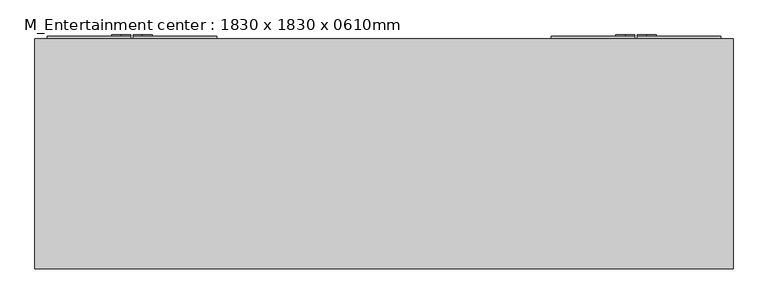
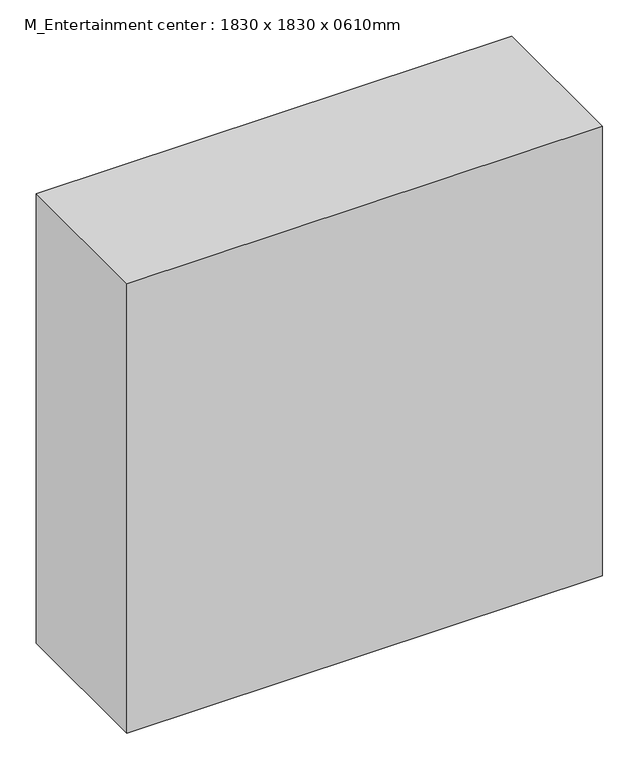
"""IFC4 building model written with IfcOpenShell, lengths in millimetres: furniture geometry, M_Entertainment center : 1830 x 1830 x 0610mm."""

import ifcopenshell
import ifcopenshell.guid

model = None  # the IFC model being written
_history = None  # IfcOwnerHistory: only IFC2X3 demands one
_inside = {}  # id of a spatial element -> (the spatial element, [elements in it])
_under = {}  # id of a project, library or spatial element -> (it, [spatial elements below it])
_declared = {}  # id of a project -> (the project, [libraries it declares])
_typed = {}  # id of a type object -> (the type object, [elements of that type])
_made_of = {}  # id of a material, layer set ... -> (it, [elements and type objects made of it])


def new_model(schema):
    """Start an empty IFC model of exactly this schema.

    Asked for "IFC4X3", IfcOpenShell would pick the latest addendum, in which some entities
    have other attributes; the version numbers below select the first issue.
    IFC2X3 requires an IfcOwnerHistory on every rooted entity: one is made here for all.
    """
    global model, _history
    if schema == "IFC4X3":
        model = ifcopenshell.file(schema_version=(4, 3, 0, 0))
    else:
        model = ifcopenshell.file(schema=schema)
    _inside.clear()
    _under.clear()
    _declared.clear()
    _typed.clear()
    _made_of.clear()
    _history = None
    if model.schema == "IFC2X3":
        org = make("IfcOrganization", Name="unknown")
        user = make(
            "IfcPersonAndOrganization",
            ThePerson=make("IfcPerson", FamilyName="unknown"),
            TheOrganization=org,
        )
        app = make(
            "IfcApplication",
            ApplicationDeveloper=org,
            Version="unknown",
            ApplicationFullName="unknown",
            ApplicationIdentifier="unknown",
        )
        _history = make(
            "IfcOwnerHistory",
            OwningUser=user,
            OwningApplication=app,
            ChangeAction="ADDED",
            CreationDate=0,
        )
    return model


def make(cls, **values):
    """One entity of the class cls with the attributes given. An attribute that is None is left unset."""
    return model.create_entity(
        cls, **{name: value for name, value in values.items() if value is not None}
    )


def rooted(cls, **values):
    """An entity with a GlobalId (a new one), such as an element, a storey or a relation."""
    return make(cls, GlobalId=ifcopenshell.guid.new(), OwnerHistory=_history, **values)


def si_unit(unit_type, name, prefix=None):
    """IfcSIUnit, for example si_unit("LENGTHUNIT", "METRE", prefix="MILLI")."""
    return make("IfcSIUnit", UnitType=unit_type, Prefix=prefix, Name=name)


def assignment(units):
    """IfcUnitAssignment: the units of a project."""
    return None if units is None else make("IfcUnitAssignment", Units=units)


def point(xyz):
    """IfcCartesianPoint."""
    return None if xyz is None else make("IfcCartesianPoint", Coordinates=xyz)


def direction(xyz):
    """IfcDirection."""
    return None if xyz is None else make("IfcDirection", DirectionRatios=xyz)


def frame(location, z_axis=None, x_axis=None):
    """IfcAxis2Placement3D, a coordinate frame: its origin and axes. An axis left out is left unset."""
    return make(
        "IfcAxis2Placement3D",
        Location=point(location),
        Axis=direction(z_axis),
        RefDirection=direction(x_axis),
    )


def frame_2d(location, x_axis=None):
    """IfcAxis2Placement2D, a coordinate frame in the plane: its origin and x axis."""
    return make(
        "IfcAxis2Placement2D", Location=point(location), RefDirection=direction(x_axis)
    )


def origin():
    """The frame at (0, 0, 0) with its axes left unset."""
    return frame((0.0, 0.0, 0.0))


def place(relative_to, where):
    """IfcLocalPlacement: puts the frame where relative to a parent placement (None: the world)."""
    return make(
        "IfcLocalPlacement", PlacementRelTo=relative_to, RelativePlacement=where
    )


def context(
    kind, dimensions, precision=None, world=None, true_north=None, identifier=None
):
    """IfcGeometricRepresentationContext, for example the 3D "Model" context."""
    return make(
        "IfcGeometricRepresentationContext",
        ContextIdentifier=identifier,
        ContextType=kind,
        CoordinateSpaceDimension=dimensions,
        Precision=precision,
        WorldCoordinateSystem=world,
        TrueNorth=true_north,
    )


def project(units=None, contexts=None):
    """IfcProject with its units and contexts."""
    return rooted(
        "IfcProject",
        Name="project",
        RepresentationContexts=contexts,
        UnitsInContext=assignment(units),
    )


def spatial(cls, under=None, at=None, **own):
    """A site, building, storey or space (cls), placed at a placement, below another one or the project."""
    s = rooted(cls, ObjectPlacement=at, **own)
    if under is not None:
        _under.setdefault(under.id(), (under, []))[1].append(s)
    return s


def polyline(points):
    """IfcPolyline through the points."""
    return make("IfcPolyline", Points=[point(p) for p in points])


def circle_curve(where, radius):
    """IfcCircle in the frame where."""
    return make("IfcCircle", Position=where, Radius=radius)


def trimmed(basis, trim1, trim2, sense, master):
    """IfcTrimmedCurve: the piece of a basis curve between two trims."""
    return make(
        "IfcTrimmedCurve",
        BasisCurve=basis,
        Trim1=trim1,
        Trim2=trim2,
        SenseAgreement=sense,
        MasterRepresentation=master,
    )


def segment(curve, same_sense, transition):
    """IfcCompositeCurveSegment."""
    return make(
        "IfcCompositeCurveSegment",
        Transition=transition,
        SameSense=same_sense,
        ParentCurve=curve,
    )


def composite_curve(segments, self_intersect=None):
    """IfcCompositeCurve: segments joined end to end."""
    return make("IfcCompositeCurve", Segments=segments, SelfIntersect=self_intersect)


def outline(outer, holes=None, kind="AREA"):
    """IfcArbitraryClosedProfileDef: a profile drawn as a closed curve; with holes, ...WithVoids."""
    if holes is None:
        return make("IfcArbitraryClosedProfileDef", ProfileType=kind, OuterCurve=outer)
    return make(
        "IfcArbitraryProfileDefWithVoids",
        ProfileType=kind,
        OuterCurve=outer,
        InnerCurves=holes,
    )


def extrude(swept, where, along, depth):
    """IfcExtrudedAreaSolid: the profile swept, set in the frame where, extruded along a direction by depth."""
    return make(
        "IfcExtrudedAreaSolid",
        SweptArea=swept,
        Position=where,
        ExtrudedDirection=direction(along),
        Depth=depth,
    )


def faces_of(points, faces, orient=None, outer=None):
    """IfcFace entities. A face is a list of loops; a loop is a list of indices into points, from 0.

    orient and outer hold one flag for each loop. By default every Orientation is true, the
    first loop of a face is its IfcFaceOuterBound and the others are IfcFaceBound.
    """
    made = []
    for i, loops in enumerate(faces):
        bounds = []
        for j, loop in enumerate(loops):
            is_outer = j == 0 if outer is None else outer[i][j]
            bounds.append(
                make(
                    "IfcFaceOuterBound" if is_outer else "IfcFaceBound",
                    Bound=make("IfcPolyLoop", Polygon=[points[k] for k in loop]),
                    Orientation=True if orient is None else orient[i][j],
                )
            )
        made.append(make("IfcFace", Bounds=bounds))
    return made


def faceted_brep(points, faces, orient=None, outer=None, voids=None):
    """IfcFacetedBrep: a solid bounded by flat faces; with voids (closed shells), ...WithVoids."""
    shared = [point(p) for p in points]
    hull = make("IfcClosedShell", CfsFaces=faces_of(shared, faces, orient, outer))
    if voids is None:
        return make("IfcFacetedBrep", Outer=hull)
    return make(
        "IfcFacetedBrepWithVoids",
        Outer=hull,
        Voids=[
            make(cls, CfsFaces=faces_of(shared, fs, o, b)) for cls, fs, o, b in voids
        ],
    )


def shape(context_of_items, identifier, shape_type, items):
    """IfcShapeRepresentation: the items that make up one representation, for example the "Body"."""
    return make(
        "IfcShapeRepresentation",
        ContextOfItems=context_of_items,
        RepresentationIdentifier=identifier,
        RepresentationType=shape_type,
        Items=items,
    )


def source(mapping_origin, context_of_items, identifier, shape_type, items):
    """IfcRepresentationMap: a shape defined once, which mapped items show again and again."""
    return make(
        "IfcRepresentationMap",
        MappingOrigin=mapping_origin,
        MappedRepresentation=shape(context_of_items, identifier, shape_type, items),
    )


def transform(
    local_origin,
    x_axis=None,
    y_axis=None,
    z_axis=None,
    scale=None,
    scale2=None,
    scale3=None,
    uniform=True,
):
    """IfcCartesianTransformationOperator3D, or its non-uniform kind. x_axis, y_axis, z_axis: its Axis1, 2, 3."""
    if uniform:
        return make(
            "IfcCartesianTransformationOperator3D",
            Axis1=direction(x_axis),
            Axis2=direction(y_axis),
            LocalOrigin=point(local_origin),
            Scale=scale,
            Axis3=direction(z_axis),
        )
    return make(
        "IfcCartesianTransformationOperator3DnonUniform",
        Axis1=direction(x_axis),
        Axis2=direction(y_axis),
        LocalOrigin=point(local_origin),
        Scale=scale,
        Axis3=direction(z_axis),
        Scale2=scale2,
        Scale3=scale3,
    )


def mapped(mapping_source, mapping_target):
    """IfcMappedItem: shows the shape of a source again, moved by a transform."""
    return make(
        "IfcMappedItem", MappingSource=mapping_source, MappingTarget=mapping_target
    )


def made_of(thing, what):
    """Note that an element or type object is made of a material, layer set ...; save() writes the relation."""
    if what is not None:
        _made_of.setdefault(what.id(), (what, []))[1].append(thing)
    return thing


def element(
    cls,
    number,
    at=None,
    inside=None,
    cuts=None,
    type_object=None,
    material=None,
    context=None,
    identifier="Body",
    shape_type=None,
    held_by="IfcProductDefinitionShape",
    body=None,
    shapes=None,
    **own,
):
    """One element of the class cls, such as IfcWall. Its Tag is "e" and its number.

    at: its placement. inside: the storey or other place that contains it. cuts: it is an
    opening in that element (IfcRelVoidsElement). A single representation is given by context,
    identifier, shape_type and body (its items); several are given by shapes. held_by: the class
    of the entity that holds the representations. save() writes the other relations.
    """
    e = rooted(cls, Tag="e%d" % number, ObjectPlacement=at, **own)
    if body is not None:
        shapes = [shape(context, identifier, shape_type, body)]
    if shapes is not None:
        e.Representation = make(held_by, Representations=shapes)
    if inside is not None:
        _inside.setdefault(inside.id(), (inside, []))[1].append(e)
    if cuts is not None:
        rooted(
            "IfcRelVoidsElement", RelatingBuildingElement=cuts, RelatedOpeningElement=e
        )
    if type_object is not None:
        _typed.setdefault(type_object.id(), (type_object, []))[1].append(e)
    return made_of(e, material)


def aggregate(whole, parts):
    """IfcRelAggregates: a whole, such as a stair, and the parts it consists of."""
    return rooted("IfcRelAggregates", RelatingObject=whole, RelatedObjects=parts)


def save(model, path):
    """Write the relations noted so far, then the file.

    IfcRelAggregates (storeys below a building ...), IfcRelContainedInSpatialStructure (elements
    in a storey), IfcRelDefinesByType, IfcRelAssociatesMaterial and IfcRelDeclares: one each for
    every whole, place, type object, material and project.
    """
    for whole, parts in _under.values():
        aggregate(whole, parts)
    for where, things in _inside.values():
        rooted(
            "IfcRelContainedInSpatialStructure",
            RelatedElements=things,
            RelatingStructure=where,
        )
    for kind, things in _typed.values():
        rooted("IfcRelDefinesByType", RelatedObjects=things, RelatingType=kind)
    for what, things in _made_of.values():
        rooted("IfcRelAssociatesMaterial", RelatedObjects=things, RelatingMaterial=what)
    for by, libraries in _declared.values():
        rooted("IfcRelDeclares", RelatingContext=by, RelatedDefinitions=libraries)
    model.write(path)


def m_entertainment_center_1830_x_1830_x_0610mm_4f6058a0(model_context):
    return source(origin(), model_context, "Body", "SolidModel", [
        faceted_brep([(915.0, 705.05, 0.0), (-915.0, 705.05, 0.0), (-915.0, 705.05, 1830.0), (915.0, 705.05, 1830.0), (-457.3, 705.05, 1779.2), (-864.2, 705.05, 1779.2), (-864.2, 705.05, 1385.2), (-457.3, 705.05, 1385.2), (-457.3, 705.05, 76.2), (-457.3, 705.05, 444.8), (-864.2, 705.05, 444.8), (-864.2, 705.05, 76.2), (864.2, 705.05, 1385.2), (864.2, 705.05, 1779.2), (457.3, 705.05, 1779.2), (457.3, 705.05, 1385.2), (-406.5, 705.05, 737.2), (406.5, 705.05, 737.2), (406.5, 705.05, 1779.2), (-406.5, 705.05, 1779.2), (406.5, 705.05, 76.2), (406.5, 705.05, 381.3), (-406.5, 705.05, 381.3), (-406.5, 705.05, 76.2), (864.2, 705.05, 76.2), (864.2, 705.05, 444.8), (457.3, 705.05, 444.8), (457.3, 705.05, 76.2), (-864.2, 705.05, 470.2), (-457.3, 705.05, 470.2), (-457.3, 705.05, 902.3), (-864.2, 705.05, 902.3), (-457.3, 705.05, 1359.8), (-864.2, 705.05, 1359.8), (-864.2, 705.05, 927.7), (-457.3, 705.05, 927.7), (457.3, 705.05, 1359.8), (457.3, 705.05, 927.7), (864.2, 705.05, 927.7), (864.2, 705.05, 1359.8), (457.3, 705.05, 902.3), (457.3, 705.05, 470.2), (864.2, 705.05, 470.2), (864.2, 705.05, 902.3), (406.5, 705.05, 406.7), (406.5, 705.05, 711.8), (-406.5, 705.05, 711.8), (-406.5, 705.05, 406.7), (915.0, 101.4, 0.0), (915.0, 101.4, 1830.0), (-915.0, 101.4, 1830.0), (-915.0, 101.4, 0.0), (-457.3, 126.8, 1385.2), (-457.3, 126.8, 1779.2), (-864.2, 126.8, 1385.2), (-864.2, 126.8, 1779.2), (-864.2, 126.8, 76.2), (-457.3, 126.8, 76.2), (-864.2, 126.8, 444.8), (-457.3, 126.8, 444.8), (457.3, 126.8, 1385.2), (864.2, 126.8, 1385.2), (457.3, 126.8, 1779.2), (864.2, 126.8, 1779.2), (-406.5, 126.8, 1779.2), (-406.5, 126.8, 737.2), (406.5, 126.8, 1779.2), (406.5, 126.8, 737.2), (-406.5, 126.8, 76.2), (406.5, 126.8, 76.2), (-406.5, 126.8, 381.3), (406.5, 126.8, 381.3), (457.3, 126.8, 76.2), (864.2, 126.8, 76.2), (457.3, 126.8, 444.8), (864.2, 126.8, 444.8), (-864.2, 126.8, 902.3), (-864.2, 126.8, 470.2), (-457.3, 126.8, 902.3), (-457.3, 126.8, 470.2), (-457.3, 126.8, 927.7), (-457.3, 126.8, 1359.8), (-864.2, 126.8, 927.7), (-864.2, 126.8, 1359.8), (864.2, 126.8, 1359.8), (457.3, 126.8, 1359.8), (864.2, 126.8, 927.7), (457.3, 126.8, 927.7), (864.2, 126.8, 902.3), (457.3, 126.8, 902.3), (864.2, 126.8, 470.2), (457.3, 126.8, 470.2), (-406.5, 126.8, 406.7), (406.5, 126.8, 406.7), (-406.5, 126.8, 711.8), (406.5, 126.8, 711.8)], [[[0, 1, 2, 3], [4, 5, 6, 7], [8, 9, 10, 11], [12, 13, 14, 15], [16, 17, 18, 19], [20, 21, 22, 23], [24, 25, 26, 27], [28, 29, 30, 31], [32, 33, 34, 35], [36, 37, 38, 39], [40, 41, 42, 43], [44, 45, 46, 47]], [[48, 49, 50, 51]], [[3, 49, 48, 0]], [[2, 50, 49, 3]], [[1, 51, 50, 2]], [[0, 48, 51, 1]], [[7, 52, 53, 4]], [[6, 54, 52, 7]], [[5, 55, 54, 6]], [[4, 53, 55, 5]], [[11, 56, 57, 8]], [[10, 58, 56, 11]], [[9, 59, 58, 10]], [[8, 57, 59, 9]], [[15, 60, 61, 12]], [[14, 62, 60, 15]], [[13, 63, 62, 14]], [[12, 61, 63, 13]], [[19, 64, 65, 16]], [[18, 66, 64, 19]], [[17, 67, 66, 18]], [[16, 65, 67, 17]], [[23, 68, 69, 20]], [[22, 70, 68, 23]], [[21, 71, 70, 22]], [[20, 69, 71, 21]], [[27, 72, 73, 24]], [[26, 74, 72, 27]], [[25, 75, 74, 26]], [[24, 73, 75, 25]], [[31, 76, 77, 28]], [[30, 78, 76, 31]], [[29, 79, 78, 30]], [[28, 77, 79, 29]], [[35, 80, 81, 32]], [[34, 82, 80, 35]], [[33, 83, 82, 34]], [[32, 81, 83, 33]], [[39, 84, 85, 36]], [[38, 86, 84, 39]], [[37, 87, 86, 38]], [[36, 85, 87, 37]], [[43, 88, 89, 40]], [[42, 90, 88, 43]], [[41, 91, 90, 42]], [[40, 89, 91, 41]], [[47, 92, 93, 44]], [[46, 94, 92, 47]], [[45, 95, 94, 46]], [[44, 93, 95, 45]], [[52, 54, 55, 53]], [[56, 58, 59, 57]], [[60, 62, 63, 61]], [[64, 66, 67, 65]], [[68, 70, 71, 69]], [[72, 74, 75, 73]], [[76, 78, 79, 77]], [[80, 82, 83, 81]], [[84, 86, 87, 85]], [[88, 90, 91, 89]], [[92, 94, 95, 93]]]),
        extrude(outline(composite_curve([segment(polyline([(1003.9, -633.3486452), (1003.9, -657.575), (826.1, -657.575), (826.1, -633.3486452)]), True, "CONTINUOUS"), segment(trimmed(circle_curve(frame_2d((851.5, -633.3486452)), 25.4), [point((826.1, -633.3486452))], [point((851.5, -607.9486452))], False, "CARTESIAN"), True, "CONTINUOUS"), segment(polyline([(851.5, -607.9486452), (978.5, -607.9486452)]), True, "CONTINUOUS"), segment(trimmed(circle_curve(frame_2d((978.5, -633.3486452)), 25.4), [point((978.5, -607.9486452))], [point((1003.9, -633.3486452))], False, "CARTESIAN"), True, "CONTINUOUS")], self_intersect=False)), frame((0.0, 711.4, 0.0), z_axis=(0.0, 1.0, 0.0), x_axis=(0.0, 0.0, 1.0)), (0.0, 0.0, 1.0), 3.175),
        extrude(outline(composite_curve([segment(trimmed(circle_curve(frame_2d((978.5, -688.53125)), 25.4), [point((1003.9, -688.53125))], [point((978.5, -713.93125))], False, "CARTESIAN"), True, "CONTINUOUS"), segment(polyline([(978.5, -713.93125), (851.5, -713.93125)]), True, "CONTINUOUS"), segment(trimmed(circle_curve(frame_2d((851.5, -688.53125)), 25.4), [point((851.5, -713.93125))], [point((826.1, -688.53125))], False, "CARTESIAN"), True, "CONTINUOUS"), segment(polyline([(826.1, -688.53125), (826.1, -663.925), (1003.9, -663.925), (1003.9, -688.53125)]), True, "CONTINUOUS")], self_intersect=False)), frame((0.0, 711.4, 0.0), z_axis=(0.0, 1.0, 0.0), x_axis=(0.0, 0.0, 1.0)), (0.0, 0.0, 1.0), 3.175),
        extrude(outline(composite_curve([segment(trimmed(circle_curve(frame_2d((978.5, 633.3486452)), 25.4), [point((1003.9, 633.3486452))], [point((978.5, 607.9486452))], False, "CARTESIAN"), True, "CONTINUOUS"), segment(polyline([(978.5, 607.9486452), (851.5, 607.9486452)]), True, "CONTINUOUS"), segment(trimmed(circle_curve(frame_2d((851.5, 633.3486452)), 25.4), [point((851.5, 607.9486452))], [point((826.1, 633.3486452))], False, "CARTESIAN"), True, "CONTINUOUS"), segment(polyline([(826.1, 633.3486452), (826.1, 657.575), (1003.9, 657.575), (1003.9, 633.3486452)]), True, "CONTINUOUS")], self_intersect=False)), frame((0.0, 711.4, 0.0), z_axis=(0.0, 1.0, 0.0), x_axis=(0.0, 0.0, 1.0)), (0.0, 0.0, 1.0), 3.175),
        extrude(outline(composite_curve([segment(polyline([(1003.9, 688.53125), (1003.9, 663.925), (826.1, 663.925), (826.1, 688.53125)]), True, "CONTINUOUS"), segment(trimmed(circle_curve(frame_2d((851.5, 688.53125)), 25.4), [point((826.1, 688.53125))], [point((851.5, 713.93125))], False, "CARTESIAN"), True, "CONTINUOUS"), segment(polyline([(851.5, 713.93125), (978.5, 713.93125)]), True, "CONTINUOUS"), segment(trimmed(circle_curve(frame_2d((978.5, 688.53125)), 25.4), [point((978.5, 713.93125))], [point((1003.9, 688.53125))], False, "CARTESIAN"), True, "CONTINUOUS")], self_intersect=False)), frame((0.0, 711.4, 0.0), z_axis=(0.0, 1.0, 0.0), x_axis=(0.0, 0.0, 1.0)), (0.0, 0.0, 1.0), 3.175),
        extrude(outline(polyline([(-883.25, 705.05), (-883.25, 711.4), (-663.925, 711.4), (-663.925, 705.05), (-883.25, 705.05)])), frame((0.0, 0.0, 50.8), z_axis=(0.0, 0.0, 1.0), x_axis=(1.0, 0.0, 0.0)), (0.0, 0.0, 1.0), 1747.45),
        extrude(outline(polyline([(-657.575, 705.05), (-657.575, 711.4), (-438.25, 711.4), (-438.25, 705.05), (-657.575, 705.05)])), frame((0.0, 0.0, 50.8), z_axis=(0.0, 0.0, 1.0), x_axis=(1.0, 0.0, 0.0)), (0.0, 0.0, 1.0), 1747.45),
        extrude(outline(polyline([(663.925, 705.05), (663.925, 711.4), (883.25, 711.4), (883.25, 705.05), (663.925, 705.05)])), frame((0.0, 0.0, 50.8), z_axis=(0.0, 0.0, 1.0), x_axis=(1.0, 0.0, 0.0)), (0.0, 0.0, 1.0), 1747.45),
        extrude(outline(polyline([(438.25, 705.05), (438.25, 711.4), (657.575, 711.4), (657.575, 705.05), (438.25, 705.05)])), frame((0.0, 0.0, 50.8), z_axis=(0.0, 0.0, 1.0), x_axis=(1.0, 0.0, 0.0)), (0.0, 0.0, 1.0), 1747.45),
    ])


if __name__ == "__main__":
    model = new_model("IFC4")
    model_context = context("Model", 3, world=origin())
    ifc_project = project(units=[si_unit("LENGTHUNIT", "METRE", prefix="MILLI")], contexts=[model_context])
    site = spatial("IfcSite", under=ifc_project)
    building = spatial("IfcBuilding", under=site)
    placement = place(None, origin())
    m_entertainment_center_1830_x_1830_x_0610mm_shape = m_entertainment_center_1830_x_1830_x_0610mm_4f6058a0(model_context)
    element("IfcFurniture", 1, ObjectType="M_Entertainment center : 1830 x 1830 x 0610mm", at=placement, inside=building, context=model_context, shape_type="MappedRepresentation", body=[
        mapped(m_entertainment_center_1830_x_1830_x_0610mm_shape, transform((0.0, 0.0, 0.0), x_axis=(1.0, 0.0, 0.0), y_axis=(0.0, 1.0, 0.0), z_axis=(0.0, 0.0, 1.0))),
    ])
    save(model, "model.ifc")
